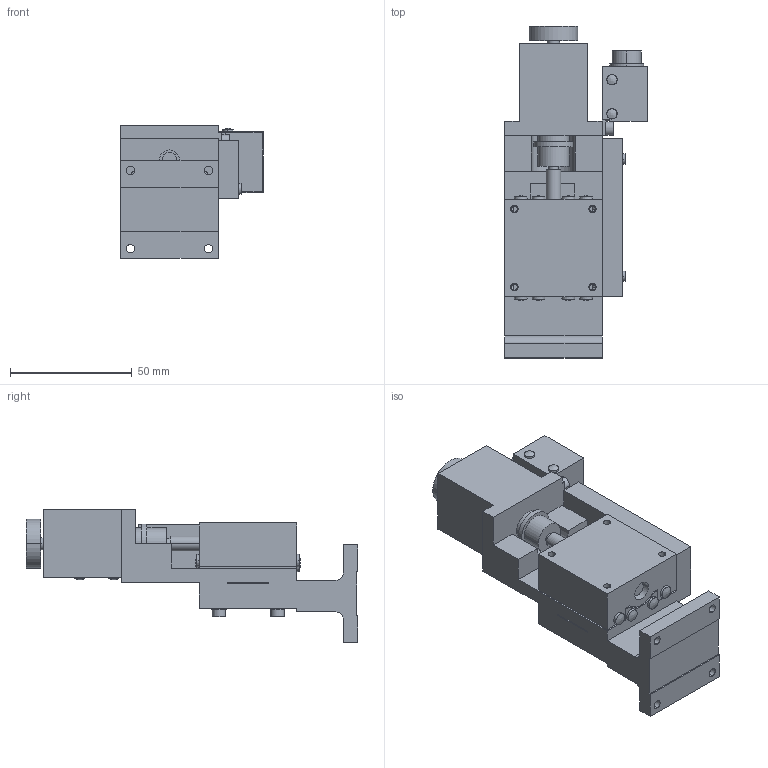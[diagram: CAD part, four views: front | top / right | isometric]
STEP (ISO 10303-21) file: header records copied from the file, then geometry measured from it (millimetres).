
FILE_DESCRIPTION (( 'STEP AP203' ), '1' );
FILE_NAME ('ALZ-4011-G1M-R.STEP', '2010-12-21T05:08:33', ( ' ' ), ( ' ' ), 'SwSTEP 2.0', 'SolidWorks 2010', '' );
FILE_SCHEMA (( 'CONFIG_CONTROL_DESIGN' ));
Length unit declared in the file: millimetre
Products named in the file (3): ALZ-4011-G1M-R-1; ALZ-4011-G1M-R-2; ALZ-4011-G1M-R
Assembly tree (2 placements, depth 2):
  ALZ-4011-G1M-R
    ALZ-4011-G1M-R-1
    ALZ-4011-G1M-R-2
Bounding box: 58.5 x 136 x 54.5 mm (x, y, z)
Volume: 134930.2 mm3; surface area: 45562.8 mm2
Topology: 2 solids, 7 shells, 333 faces, 791 edges, 519 vertices
Faces by surface type: plane 158, cylinder 127, cone 34, bspline 14
Entity records: 12772 total; most frequent: CARTESIAN_POINT 4522, DIRECTION 1701, ORIENTED_EDGE 1574, EDGE_CURVE 787, AXIS2_PLACEMENT_3D 622, VERTEX_POINT 519, LINE 457, VECTOR 457
